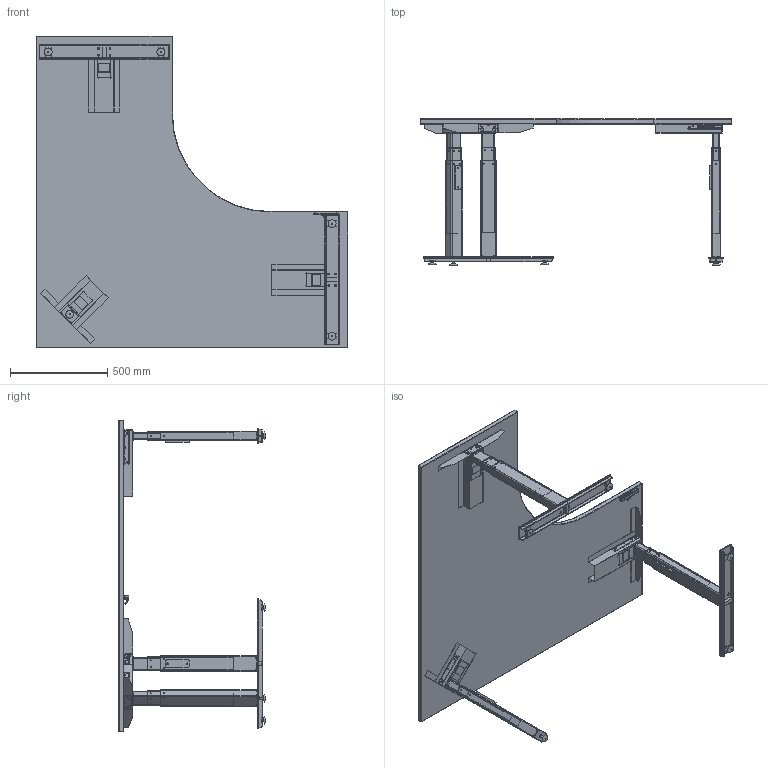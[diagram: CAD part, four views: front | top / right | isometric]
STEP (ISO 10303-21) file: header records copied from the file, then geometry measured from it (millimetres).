
FILE_DESCRIPTION(/* description */ ('','CAx-IF Rec.Pracs.---Representation and Presentation of Product Manufacturing Information (PMI)---4.0---2014-10-13'),/* implementation_level */ '2;1');
FILE_NAME(/* name */ '1600BLACK.step',/* time_stamp */ '2025-03-05T11:06:09+13:00',/* author */ (''),/* organization */ (''),/* preprocessor_version */ 'ST-DEVELOPER v20',/* originating_system */ 'Autodesk Translation Framework v13.20.0.188',/* authorisation */ '');
FILE_SCHEMA (('AP242_MANAGED_MODEL_BASED_3D_ENGINEERING_MIM_LF { 1 0 10303 442 1 1 4 }'));
Products named in the file (28): BLACK; DPF1C_DISPLAY_BRACKET; HAW LEG Long; DL6_BIFMA_WITH_BRACKET_ASM; Metalon Foot; MetalonAdjFoot; MetalonAdjFoot_1; HAW LEG Long_1; Component12; Component13; DL6_BIFMA_WITH_BRACKET_ASM_1; DL6NC_MP; STANDART_MOTORHUS_DL6_BIFMA1; DL6NC_BIFMA_OP_NEW; Metalon Foot_1; MetalonAdjFoot_2; MetalonAdjFoot_3; MetalonAdjFoot_4; HAW LEG Short v8; Component12_1; Component13_1; DL6_BIFMA_WITH_BRACKET_ASM_2; DL6NC_MP_1; STANDART_MOTORHUS_DL6_BIFMA1_1; DL6NC_BIFMA_OP_NEW_1; HAW middle leg v3; MetalonAdjFoot v8; MetalonAdjFoot_5
Assembly tree (35 placements, depth 5):
  BLACK
    DPF1C_DISPLAY_BRACKET
    HAW LEG Long
      Component12
      Component13
      DL6_BIFMA_WITH_BRACKET_ASM
        DL6NC_MP
        STANDART_MOTORHUS_DL6_BIFMA1
        DL6NC_BIFMA_OP_NEW
      Metalon Foot
        MetalonAdjFoot
          MetalonAdjFoot_4
        MetalonAdjFoot_1
          MetalonAdjFoot_4
    HAW LEG Long_1
      Component12
      Component13
      DL6_BIFMA_WITH_BRACKET_ASM_1
        DL6NC_MP
        STANDART_MOTORHUS_DL6_BIFMA1
        DL6NC_BIFMA_OP_NEW
      Metalon Foot_1
        MetalonAdjFoot_2
          MetalonAdjFoot_4
        MetalonAdjFoot_3
          MetalonAdjFoot_4
    HAW LEG Short v8
      Component12_1
      Component13_1
      DL6_BIFMA_WITH_BRACKET_ASM_2
        DL6NC_MP_1
        STANDART_MOTORHUS_DL6_BIFMA1_1
        DL6NC_BIFMA_OP_NEW_1
      HAW middle leg v3
        MetalonAdjFoot v8
          MetalonAdjFoot_5
Bounding box: 1600 x 750 x 1600 mm (x, y, z)
Volume: 62025711 mm3; surface area: 5951048.1 mm2
Topology: 36 solids, 37 shells, 4351 faces, 11358 edges, 7199 vertices
Faces by surface type: plane 2289, cylinder 1490, torus 235, bspline 190, sphere 133, cone 14
Full cylindrical faces by diameter (mm): 0.4 x1, 1 x2, 4.6 x6, 5 x30, 5.3 x36, 5.5 x12, 6.8 x6, 7 x6, 7.7 x4, 8 x29, 10 x4, 15 x1
Entity records: 116811 total; most frequent: CARTESIAN_POINT 38125, ORIENTED_EDGE 16430, DIRECTION 16381, EDGE_CURVE 8215, AXIS2_PLACEMENT_3D 5754, VERTEX_POINT 5228, LINE 4873, VECTOR 4873
